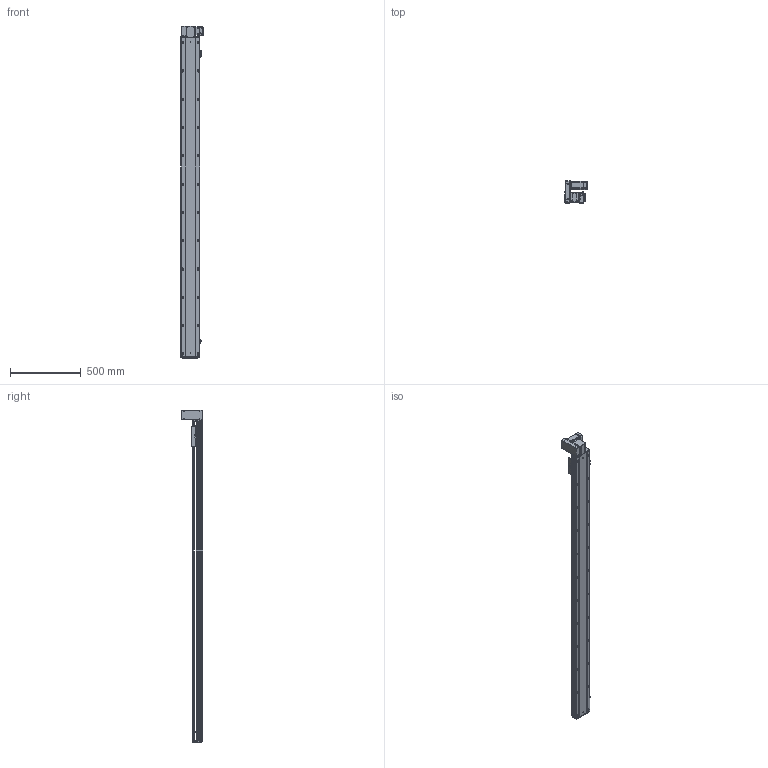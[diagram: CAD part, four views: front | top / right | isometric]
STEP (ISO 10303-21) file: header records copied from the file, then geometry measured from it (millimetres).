
FILE_DESCRIPTION (( 'STEP AP203' ), '1' );
FILE_NAME ('RY140-T-300-UL.SLDASM_2000.step', '2021-03-01T07:45:17', ( '盈信电脑' ), ( '东莞市道滘镇水果街19号' ), 'SwSTEP 2.0', 'SolidWorks 2012', '' );
FILE_SCHEMA (( 'CONFIG_CONTROL_DESIGN' ));
Length unit declared in the file: millimetre
Products named in the file (18): 覜茼ん672; RY140綴裔啣; RY140-T-300-DL倰第奻裔啣_2000; RY140肮祭謫臏賑輸; 滅袉蝶18-10; RY140-T翋肮謫裔啣; RY140-T萇儂欶; RY140-T-300-UL.SLDASM_2000; RY120-T蹟翐M4; 侂狟400W侜督萇儂; RY120-T主同步轮轴承压盖; 15; RY140-T翋肮祭謫盓傅釱; RY120-T肮祭湍揤踡輸1; RY140-T萇儂假蚾啣; RY120外置感应片(140共用）; RY120-T肮祭湍揤踡輸2; RY140-T-300-DL倰第菁釱_2000
Assembly tree (23 placements, depth 3):
  RY140-T-300-UL.SLDASM_2000
    RY140-T-300-DL倰第菁釱_2000
    RY140肮祭謫臏賑輸
    RY140-T-300-DL倰第奻裔啣_2000
    RY140綴裔啣
    覜茼ん672  x3
    RY120外置感应片(140共用）
    RY120-T肮祭湍揤踡輸2
    RY120-T肮祭湍揤踡輸1
    RY140-T翋肮祭謫盓傅釱
    RY140-T萇儂假蚾啣
    侂狟400W侜督萇儂
      15
    RY120-T主同步轮轴承压盖
    RY120-T蹟翐M4  x4
    RY140-T萇儂欶
    滅袉蝶18-10  x2
    RY140-T翋肮謫裔啣
Bounding box: 157 x 152.5 x 2346 mm (x, y, z)
Volume: 6388009.7 mm3; surface area: 2500856.6 mm2
Topology: 22 solids, 22 shells, 2891 faces, 7949 edges, 5056 vertices
Faces by surface type: plane 1385, cylinder 1116, cone 290, bspline 100
Entity records: 91527 total; most frequent: CARTESIAN_POINT 22225, ORIENTED_EDGE 14242, DIRECTION 13617, EDGE_CURVE 7121, VERTEX_POINT 4655, AXIS2_PLACEMENT_3D 4588, VECTOR 4441, LINE 4441
